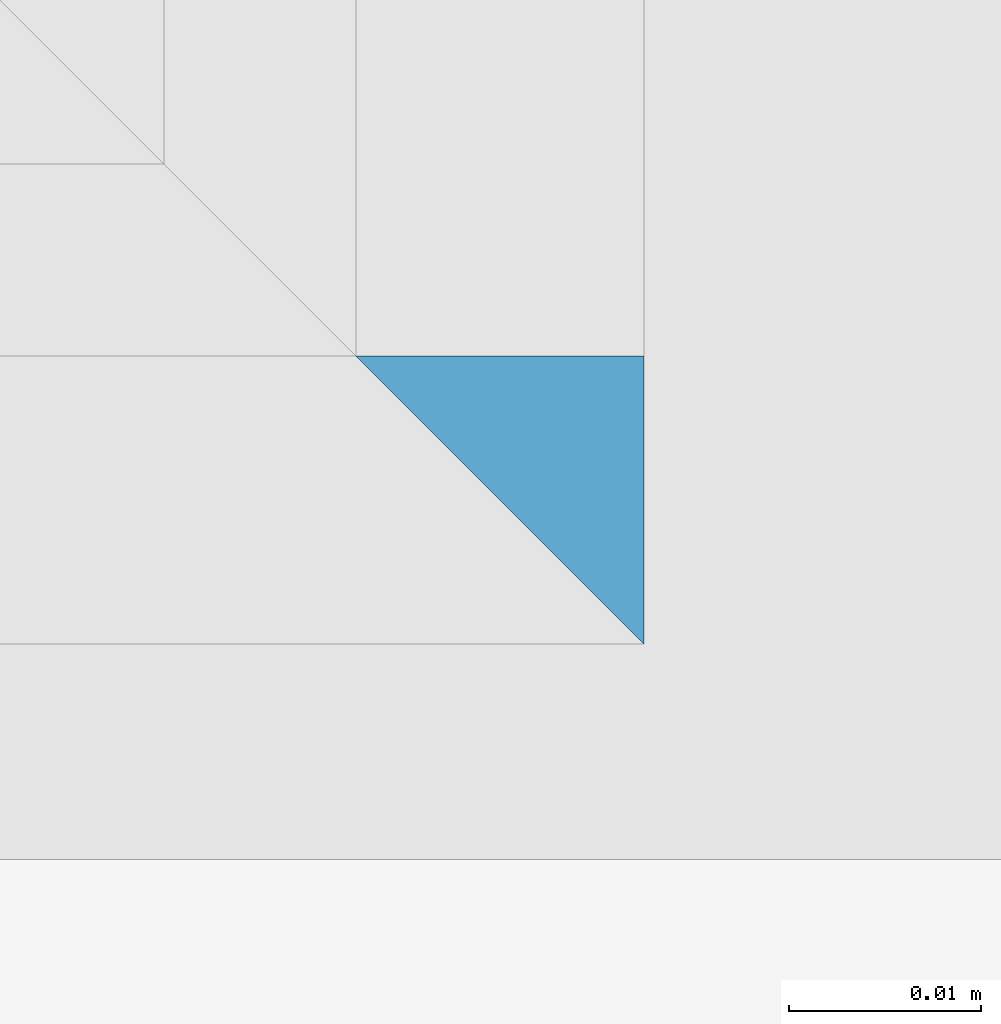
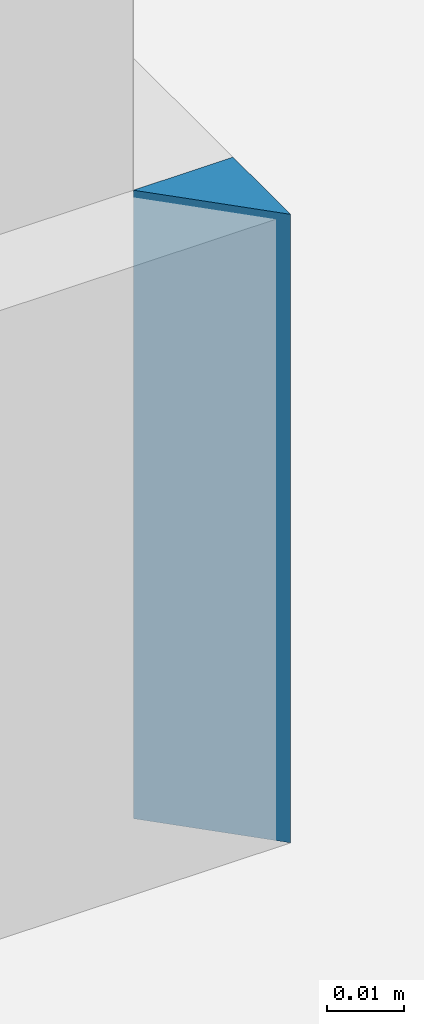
# One storey, part 23 of 183: 1 wall.
"""IFC2X3 building model written with IfcOpenShell, lengths in metres."""

from ifc_helpers import new_model, entity, si_unit, converted_unit, derived_unit, money_unit, direction, frame, origin_with_axes, place, context, subcontext, project, spatial, polyline, outline, extrude, material, layer, layer_set, layer_usage, type_object, element, save


model = new_model("IFC2X3")

# Units and contexts
model_context = context("Model", 3, precision=1e-05, world=origin_with_axes(), true_north=direction((0.0, 1.0)))
body_context = subcontext(model_context, "Body", "Model", "MODEL_VIEW", scale=1.0)
ifc_project = project(units=[si_unit("LENGTHUNIT", "METRE"), si_unit("AREAUNIT", "SQUARE_METRE"), si_unit("VOLUMEUNIT", "CUBIC_METRE"), si_unit("ABSORBEDDOSEUNIT", "GRAY"), si_unit("AMOUNTOFSUBSTANCEUNIT", "MOLE"), si_unit("DOSEEQUIVALENTUNIT", "SIEVERT"), si_unit("ELECTRICCAPACITANCEUNIT", "FARAD"), si_unit("ELECTRICCHARGEUNIT", "COULOMB"), si_unit("ELECTRICCONDUCTANCEUNIT", "SIEMENS"), si_unit("ELECTRICCURRENTUNIT", "AMPERE"), si_unit("ELECTRICRESISTANCEUNIT", "OHM"), si_unit("ELECTRICVOLTAGEUNIT", "VOLT"), si_unit("ENERGYUNIT", "JOULE"), si_unit("FORCEUNIT", "NEWTON"), si_unit("FREQUENCYUNIT", "HERTZ"), si_unit("ILLUMINANCEUNIT", "LUX"), si_unit("INDUCTANCEUNIT", "HENRY"), si_unit("LUMINOUSFLUXUNIT", "LUMEN"), si_unit("LUMINOUSINTENSITYUNIT", "CANDELA"), si_unit("MAGNETICFLUXDENSITYUNIT", "TESLA"), si_unit("MAGNETICFLUXUNIT", "WEBER"), si_unit("MASSUNIT", "GRAM"), converted_unit("PLANEANGLEUNIT", "degree", entity("IfcReal", 0.0174532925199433), si_unit("PLANEANGLEUNIT", "RADIAN"), dimensions=[0, 0, 0, 0, 0, 0, 0]), si_unit("POWERUNIT", "WATT"), si_unit("PRESSUREUNIT", "PASCAL"), si_unit("RADIOACTIVITYUNIT", "BECQUEREL"), si_unit("SOLIDANGLEUNIT", "STERADIAN"), si_unit("THERMODYNAMICTEMPERATUREUNIT", "KELVIN"), si_unit("TIMEUNIT", "SECOND"), derived_unit("ACCELERATIONUNIT", [(si_unit("LENGTHUNIT", "METRE"), 1), (si_unit("TIMEUNIT", "SECOND"), -2)]), derived_unit("ANGULARVELOCITYUNIT", [(converted_unit("PLANEANGLEUNIT", "degree", entity("IfcReal", 0.0174532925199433), si_unit("PLANEANGLEUNIT", "RADIAN"), dimensions=[0, 0, 0, 0, 0, 0, 0]), 1), (si_unit("TIMEUNIT", "SECOND"), -1)]), derived_unit("CURVATUREUNIT", [(converted_unit("PLANEANGLEUNIT", "degree", entity("IfcReal", 0.0174532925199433), si_unit("PLANEANGLEUNIT", "RADIAN"), dimensions=[0, 0, 0, 0, 0, 0, 0]), 1), (si_unit("LENGTHUNIT", "METRE"), -1)]), derived_unit("DYNAMICVISCOSITYUNIT", [(si_unit("PRESSUREUNIT", "PASCAL"), 1), (si_unit("TIMEUNIT", "SECOND"), 1)]), derived_unit("HEATFLUXDENSITYUNIT", [(si_unit("POWERUNIT", "WATT"), 1), (si_unit("LENGTHUNIT", "METRE"), -2)]), derived_unit("HEATINGVALUEUNIT", [(si_unit("ENERGYUNIT", "JOULE"), 1), (si_unit("MASSUNIT", "GRAM"), -1)]), derived_unit("INTEGERCOUNTRATEUNIT", [(si_unit("TIMEUNIT", "SECOND"), -1)]), derived_unit("IONCONCENTRATIONUNIT", [(si_unit("MASSUNIT", "GRAM"), 1), (si_unit("VOLUMEUNIT", "CUBIC_METRE"), -1)]), derived_unit("ISOTHERMALMOISTURECAPACITYUNIT", [(si_unit("VOLUMEUNIT", "CUBIC_METRE"), 1), (si_unit("MASSUNIT", "GRAM"), -1)]), derived_unit("KINEMATICVISCOSITYUNIT", [(si_unit("AREAUNIT", "SQUARE_METRE"), 1), (si_unit("TIMEUNIT", "SECOND"), -1)]), derived_unit("LINEARFORCEUNIT", [(si_unit("FORCEUNIT", "NEWTON"), 1), (si_unit("LENGTHUNIT", "METRE"), -1)]), derived_unit("LINEARMOMENTUNIT", [(si_unit("FORCEUNIT", "NEWTON"), 1), (si_unit("LENGTHUNIT", "METRE"), -1)]), derived_unit("LINEARSTIFFNESSUNIT", [(si_unit("FORCEUNIT", "NEWTON"), 1), (si_unit("LENGTHUNIT", "METRE"), -1)]), derived_unit("LINEARVELOCITYUNIT", [(si_unit("LENGTHUNIT", "METRE"), 1), (si_unit("TIMEUNIT", "SECOND"), -1)]), derived_unit("LUMINOUSINTENSITYDISTRIBUTIONUNIT", [(si_unit("LUMINOUSINTENSITYUNIT", "CANDELA"), 1), (si_unit("LUMINOUSFLUXUNIT", "LUMEN"), -1)]), derived_unit("MASSDENSITYUNIT", [(si_unit("MASSUNIT", "GRAM"), 1), (si_unit("VOLUMEUNIT", "CUBIC_METRE"), -1)]), derived_unit("MASSFLOWRATEUNIT", [(si_unit("MASSUNIT", "GRAM"), 1), (si_unit("TIMEUNIT", "SECOND"), -1)]), derived_unit("MASSPERLENGTHUNIT", [(si_unit("MASSUNIT", "GRAM"), 1), (si_unit("LENGTHUNIT", "METRE"), -1)]), derived_unit("MODULUSOFELASTICITYUNIT", [(si_unit("FORCEUNIT", "NEWTON"), 1), (si_unit("AREAUNIT", "SQUARE_METRE"), -1)]), derived_unit("MODULUSOFLINEARSUBGRADEREACTIONUNIT", [(si_unit("FORCEUNIT", "NEWTON"), 1), (si_unit("LENGTHUNIT", "METRE"), -2)]), derived_unit("MODULUSOFROTATIONALSUBGRADEREACTIONUNIT", [(si_unit("FORCEUNIT", "NEWTON"), 1), (si_unit("LENGTHUNIT", "METRE"), 1)]), derived_unit("MODULUSOFSUBGRADEREACTIONUNIT", [(si_unit("FORCEUNIT", "NEWTON"), 1), (si_unit("VOLUMEUNIT", "CUBIC_METRE"), -1)]), derived_unit("MOISTUREDIFFUSIVITYUNIT", [(si_unit("VOLUMEUNIT", "CUBIC_METRE"), 1), (si_unit("TIMEUNIT", "SECOND"), -1)]), derived_unit("MOLECULARWEIGHTUNIT", [(si_unit("MASSUNIT", "GRAM"), 1), (si_unit("AMOUNTOFSUBSTANCEUNIT", "MOLE"), -1)]), derived_unit("PLANARFORCEUNIT", [(si_unit("FORCEUNIT", "NEWTON"), 1), (si_unit("LENGTHUNIT", "METRE"), -2)]), derived_unit("ROTATIONALFREQUENCYUNIT", [(si_unit("TIMEUNIT", "SECOND"), -1)]), derived_unit("ROTATIONALMASSUNIT", [(si_unit("MASSUNIT", "GRAM"), 1), (si_unit("LENGTHUNIT", "METRE"), 2)]), derived_unit("ROTATIONALSTIFFNESSUNIT", [(si_unit("FORCEUNIT", "NEWTON"), 1), (si_unit("LENGTHUNIT", "METRE"), 1), (converted_unit("PLANEANGLEUNIT", "degree", entity("IfcReal", 0.0174532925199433), si_unit("PLANEANGLEUNIT", "RADIAN"), dimensions=[0, 0, 0, 0, 0, 0, 0]), -1)]), derived_unit("SECTIONAREAINTEGRALUNIT", [(si_unit("LENGTHUNIT", "METRE"), 5)]), derived_unit("SECTIONMODULUSUNIT", [(si_unit("LENGTHUNIT", "METRE"), 3)]), derived_unit("SHEARMODULUSUNIT", [(si_unit("FORCEUNIT", "NEWTON"), 1), (si_unit("AREAUNIT", "SQUARE_METRE"), -1)]), derived_unit("SOUNDPOWERUNIT", [(si_unit("ENERGYUNIT", "JOULE"), 1), (si_unit("TIMEUNIT", "SECOND"), -1)]), derived_unit("SPECIFICHEATCAPACITYUNIT", [(si_unit("FORCEUNIT", "NEWTON"), 1), (si_unit("MASSUNIT", "GRAM"), -1), (si_unit("THERMODYNAMICTEMPERATUREUNIT", "KELVIN"), -1)]), derived_unit("TEMPERATUREGRADIENTUNIT", [(si_unit("THERMODYNAMICTEMPERATUREUNIT", "KELVIN"), 1), (si_unit("LENGTHUNIT", "METRE"), -1)]), derived_unit("THERMALADMITTANCEUNIT", [(si_unit("POWERUNIT", "WATT"), 1), (si_unit("AREAUNIT", "SQUARE_METRE"), -1), (si_unit("THERMODYNAMICTEMPERATUREUNIT", "KELVIN"), -1)]), derived_unit("THERMALCONDUCTANCEUNIT", [(si_unit("POWERUNIT", "WATT"), 1), (si_unit("LENGTHUNIT", "METRE"), -1), (si_unit("THERMODYNAMICTEMPERATUREUNIT", "KELVIN"), -1)]), derived_unit("THERMALEXPANSIONCOEFFICIENTUNIT", [(si_unit("THERMODYNAMICTEMPERATUREUNIT", "KELVIN"), -1)]), derived_unit("THERMALRESISTANCEUNIT", [(si_unit("AREAUNIT", "SQUARE_METRE"), 1), (si_unit("POWERUNIT", "WATT"), -1)]), derived_unit("THERMALTRANSMITTANCEUNIT", [(si_unit("POWERUNIT", "WATT"), 1), (si_unit("AREAUNIT", "SQUARE_METRE"), -1), (si_unit("THERMODYNAMICTEMPERATUREUNIT", "KELVIN"), -1)]), derived_unit("TORQUEUNIT", [(si_unit("FORCEUNIT", "NEWTON"), 1), (si_unit("LENGTHUNIT", "METRE"), 1)]), derived_unit("VAPORPERMEABILITYUNIT", [(si_unit("MASSUNIT", "GRAM"), 1), (si_unit("TIMEUNIT", "SECOND"), -1)]), derived_unit("VOLUMETRICFLOWRATEUNIT", [(si_unit("VOLUMEUNIT", "CUBIC_METRE"), 1), (si_unit("TIMEUNIT", "SECOND"), -1)]), derived_unit("WARPINGCONSTANTUNIT", [(si_unit("LENGTHUNIT", "METRE"), 6)]), derived_unit("WARPINGMOMENTUNIT", [(si_unit("FORCEUNIT", "NEWTON"), 1), (si_unit("LENGTHUNIT", "METRE"), 2)]), money_unit("GBP")], contexts=[model_context])

# Site, building, storey
site_placement = place(None, origin_with_axes())
site = spatial("IfcSite", under=ifc_project, at=site_placement, Name="Site", CompositionType="ELEMENT")
building_placement = place(site_placement, origin_with_axes())
building = spatial("IfcBuilding", under=site, at=building_placement, Name="Building01", CompositionType="ELEMENT")
storey_placement = place(building_placement, frame((0.0, 0.0, 5.15), z_axis=(0.0, 0.0, 1.0), x_axis=(1.0, 0.0, 0.0)))
storey = spatial("IfcBuildingStorey", under=building, at=storey_placement, Name="1F", CompositionType="ELEMENT", Elevation=5.15)

# Wall
ifc_material = material(Name="A_BSUK_Walls_Timber")
ifc_layer = layer(ifc_material, 0.015, ventilated=False)
ifc_layer_set = layer_set([ifc_layer])
ifc_layer_usage = layer_usage(ifc_layer_set, "AXIS2", "POSITIVE", 0.0)
wall_type = type_object("IfcWallType", Name="default", PredefinedType="NOTDEFINED")
wall_placement = place(storey_placement, frame((14.85, 4.164443, 0.015), z_axis=(0.0, 0.0, 1.0), x_axis=(0.0, 1.0, 0.0)))
element("IfcWallStandardCase", 1, at=wall_placement, inside=storey, type_object=wall_type, material=ifc_layer_usage, Name="default", ObjectType="default", context=body_context, shape_type="SweptSolid", body=[
    extrude(outline(polyline([(-0.015015, -0.015), (0.0, -0.015), (0.0, 0.0), (-1.5e-05, 0.0), (-0.015015, -0.015)])), origin_with_axes(), (0.0, 0.0, 1.0), 0.1),
])

save(model, "model.ifc")
